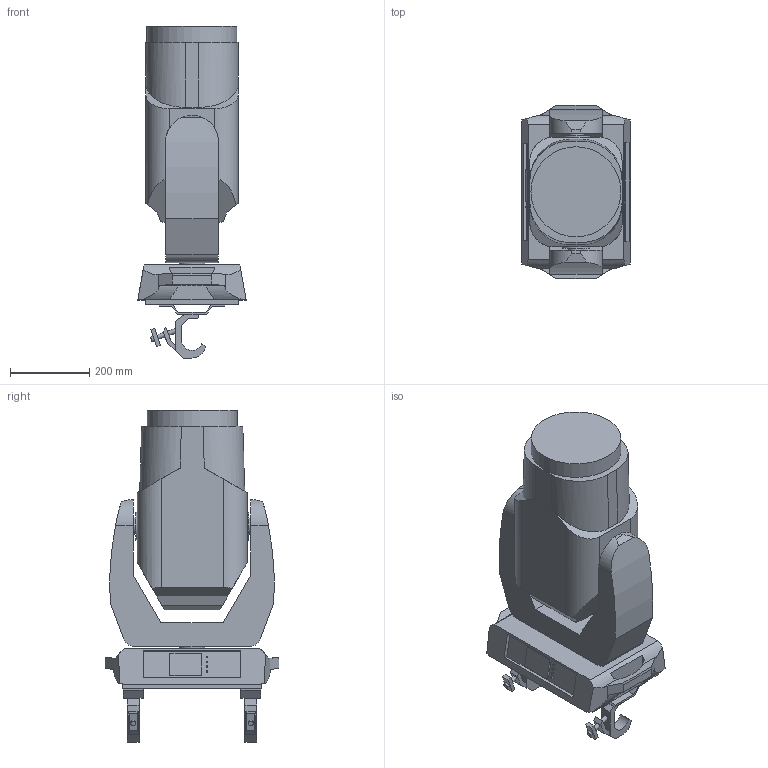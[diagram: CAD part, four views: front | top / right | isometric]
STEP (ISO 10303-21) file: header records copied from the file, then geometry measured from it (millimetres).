
FILE_DESCRIPTION( ( 'Unknown' ), '1' );
FILE_NAME( 'K:/Robin MMX/03 Robin MMX WashBeam/08 3D_2D/3D_RobinMMX-WB_00.stp', 'Unknown', ( '*' ), ( '*' ), 'PSStep 15.0.49', 'SolidEdge', ' ' );
FILE_SCHEMA( ( 'AUTOMOTIVE_DESIGN { 1 0 10303 214 1 1 1 1 }' ) );
Length unit declared in the file: millimetre
Products named in the file (7): Omega_SlimClamp_00; Omega+SlimClamp; Clamp Doughty Slimline QT; Assem1; Robin300Spot_Základna; MMX_Rameno; HlavaDLXF
Assembly tree (7 placements, depth 3):
  Assem1
    Robin300Spot_Základna
    MMX_Rameno
    HlavaDLXF
    Omega_SlimClamp_00  x2
      Omega+SlimClamp
      Clamp Doughty Slimline QT
Bounding box: 273.13 x 437.19 x 835.56 mm (x, y, z)
Volume: 43798342.2 mm3; surface area: 1338380.8 mm2
Topology: 7 solids, 7 shells, 237 faces, 621 edges, 419 vertices
Faces by surface type: plane 179, cylinder 58
Full cylindrical faces by diameter (mm): 3.634 x1, 4 x3, 10 x4, 11 x4, 12 x8, 13 x2, 40 x2, 44.874 x1, 45.497 x1, 65.661 x1, 70 x2, 226.351 x1
Entity records: 7346 total; most frequent: CARTESIAN_POINT 1164, DIRECTION 946, ORIENTED_EDGE 904, EDGE_CURVE 452, LINE 326, VECTOR 326, VERTEX_POINT 316, AXIS2_PLACEMENT_3D 310
